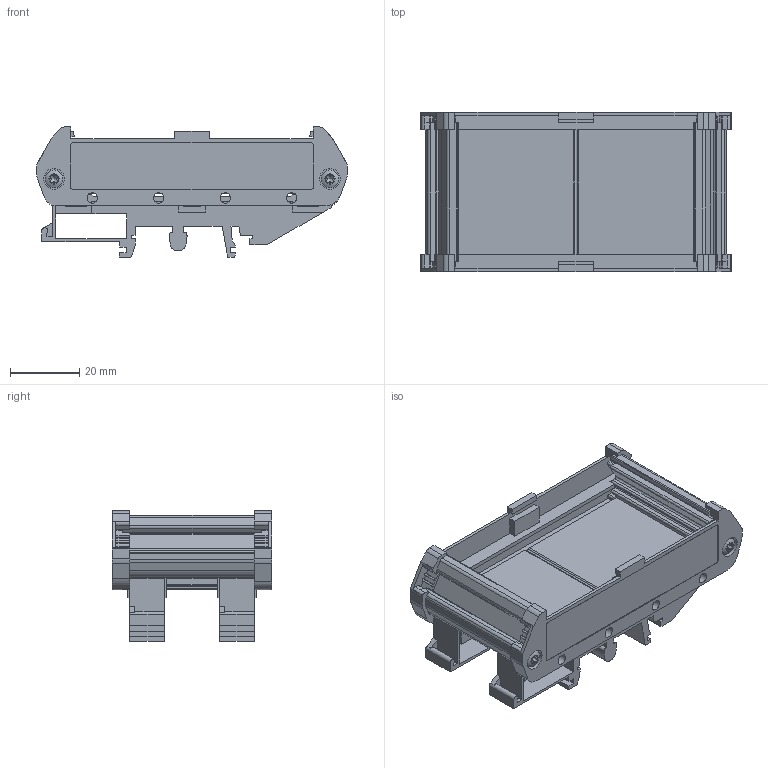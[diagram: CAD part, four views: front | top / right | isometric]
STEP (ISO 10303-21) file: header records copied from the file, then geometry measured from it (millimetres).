
FILE_DESCRIPTION(/* description */ (''),/* implementation_level */ '2;1');
FILE_NAME(/* name */ 'C:\Users\thijs\Desktop\Zilvertron\Phoenix\4000206\4000206.stp',/* time_stamp */ '2019-11-01T11:41:09+01:00',/* author */ ('thijs'),/* organization */ (''),/* preprocessor_version */ 'ST-DEVELOPER v18',/* originating_system */ 'Autodesk Inventor 2020',/* authorisation */ '');
FILE_SCHEMA (('AUTOMOTIVE_DESIGN { 1 0 10303 214 3 1 1 }'));
Length unit declared in the file: millimetre
Products named in the file (7): 4000206; pxc_2907583_00_UM-72-PROFIL-100CM_3D; UM_72-PROFIL_H.Select__00275083; pxc_2959337_01_UM-72-SE_3D; UM_72-SE_H.Select__00276902; Schr.Lins._3x14-Z_01151118; 39295
Assembly tree (9 placements, depth 3):
  4000206
    pxc_2907583_00_UM-72-PROFIL-100CM_3D
      UM_72-PROFIL_H.Select__00275083
    pxc_2959337_01_UM-72-SE_3D  x2
      UM_72-SE_H.Select__00276902
      Schr.Lins._3x14-Z_01151118
    39295  x2
Bounding box: 89.6 x 46 x 37.6 mm (x, y, z)
Volume: 34697.7 mm3; surface area: 35487.6 mm2
Topology: 9 solids, 9 shells, 1053 faces, 3131 edges, 2098 vertices
Faces by surface type: plane 672, cylinder 343, cone 20, bspline 10, sphere 4, torus 4
Full cylindrical faces by diameter (mm): 1.71 x36, 2.404 x4, 3 x10, 3.4 x4, 5.15 x4, 6 x4
Entity records: 20373 total; most frequent: CARTESIAN_POINT 5272, ORIENTED_EDGE 3200, DIRECTION 3086, EDGE_CURVE 1600, LINE 1128, VECTOR 1128, VERTEX_POINT 1072, AXIS2_PLACEMENT_3D 979
